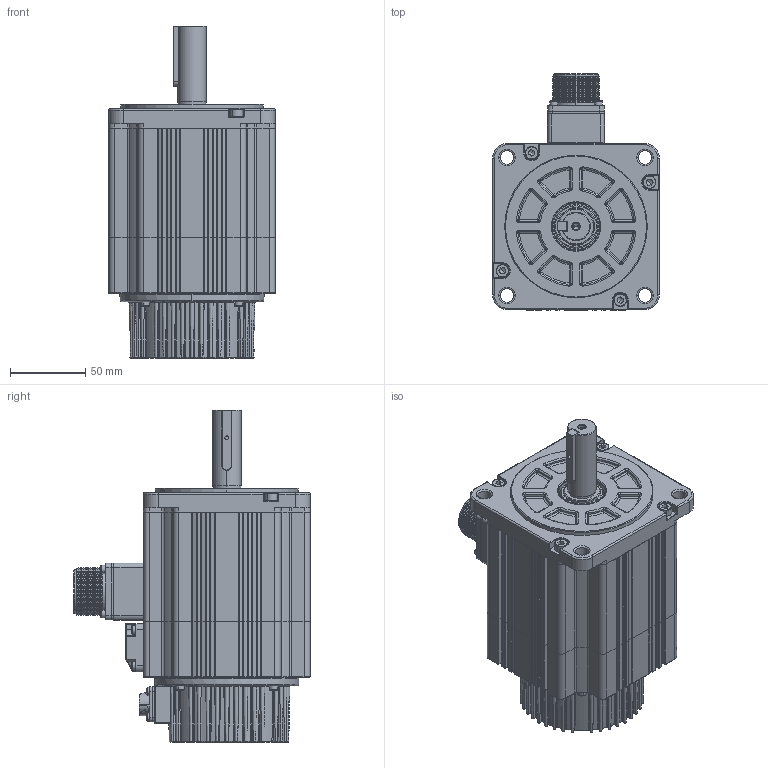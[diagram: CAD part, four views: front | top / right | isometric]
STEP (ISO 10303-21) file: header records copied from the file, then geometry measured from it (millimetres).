
FILE_DESCRIPTION (( 'STEP AP214' ), '1' );
FILE_NAME ('73³¤»ú¿Ç ´øÉ²³µ.STEP', '2021-08-10T11:07:08', ( '' ), ( '' ), 'SwSTEP 2.0', 'SolidWorks 2014', '' );
FILE_SCHEMA (( 'AUTOMOTIVE_DESIGN' ));
Length unit declared in the file: millimetre
Products named in the file (18): 价陬揤盄裔200912; 囀鞠褒 M3X8; 囀鞠褒 ISO 4762 M5 x 18; 囀鞠褒 M3X30; 110#隅赽郪璃; 坋趼羞攫芛蹟隊M3℅8; 110#ヶ傷裔; 雄薯瑤脣釱200909; 普通型 平键   C 6x6x40 带M3起键螺钉孔-1; 110#儂褲; 蚐猾 D00B999YF9-TC 25-32-4-110#; 73酗儂褲 湍价陬; 囀鞠褒 M3X10; 110#綴傷裔-价陬遴; 瑤諾脣芛 SC-CMV1-R10P-1; SC晤鎢ん欶200908_9郋; 110#陔粣-拸价陬; SC瑤諾脣芛 MS3102A20-18P
Assembly tree (36 placements, depth 3):
  73酗儂褲 湍价陬
    110#隅赽郪璃
      110#儂褲
      雄薯瑤脣釱200909
      110#ヶ傷裔
    蚐猾 D00B999YF9-TC 25-32-4-110#
    110#陔粣-拸价陬
    普通型 平键   C 6x6x40 带M3起键螺钉孔-1
    瑤諾脣芛 SC-CMV1-R10P-1
    SC晤鎢ん欶200908_9郋
    囀鞠褒 M3X30  x4
    囀鞠褒 M3X10  x4
    坋趼羞攫芛蹟隊M3℅8  x4
    囀鞠褒 ISO 4762 M5 x 18  x8
    110#綴傷裔-价陬遴
    SC瑤諾脣芛 MS3102A20-18P
    价陬揤盄裔200912
    囀鞠褒 M3X8  x4
Bounding box: 111 x 157.3 x 221.2 mm (x, y, z)
Volume: 608849.8 mm3; surface area: 254579.6 mm2
Topology: 37 solids, 37 shells, 3525 faces, 8352 edges, 4795 vertices
Faces by surface type: cylinder 1283, plane 856, torus 516, cone 349, bspline 331, sphere 190
Entity records: 99027 total; most frequent: CARTESIAN_POINT 26340, DIRECTION 15302, ORIENTED_EDGE 13964, EDGE_CURVE 6982, AXIS2_PLACEMENT_3D 6356, VERTEX_POINT 4102, CIRCLE 3562, EDGE_LOOP 3260
